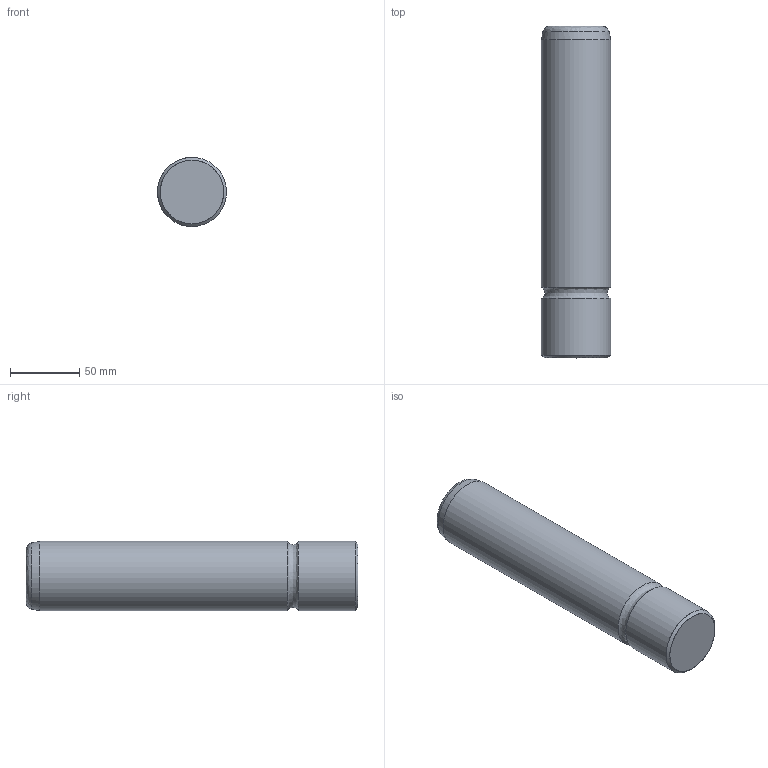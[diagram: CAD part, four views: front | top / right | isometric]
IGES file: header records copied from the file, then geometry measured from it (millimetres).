
Start section: Missler Software BP 521, 31674 Labege Cedex, France Tel   : +33 (0)5 61 00 03 00 Fax   : +33 (0)5 61 00 03 03 Email : sup.topsolid@topsolid.com
Global section: file name: C:\Documents and Settings\EXPER\Desktop\Cuma\D10 Serisi\D10_50240.igs; native system: TopSolid v605250 Missler Software; preprocessor: IGES preprocessor v100000; date: 030101.003241; units: millimetre
Bounding box: 49.95 x 240 x 50 mm (x, y, z)
Surface area: 41199.8 mm2 (no closed solid volume)
Topology: 0 solids, 0 shells, 8 faces, 85 edges, 80 vertices
Faces by surface type: bspline 8
